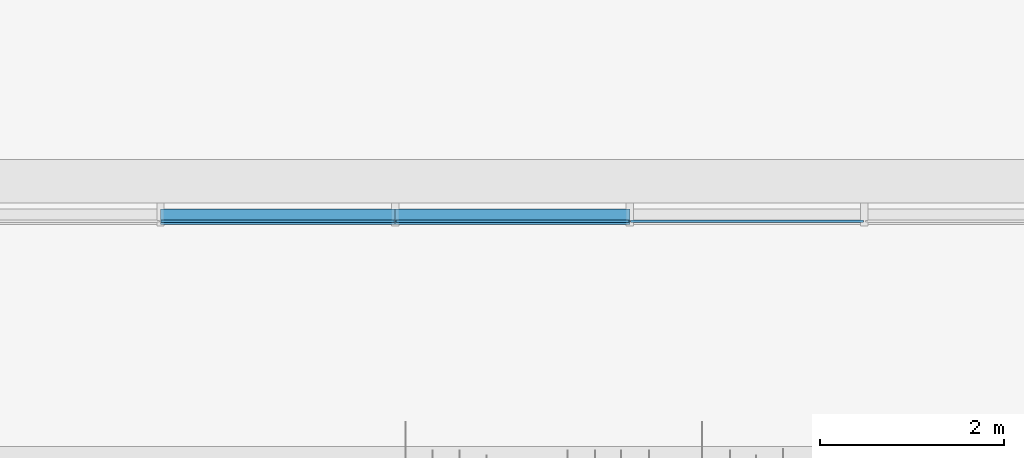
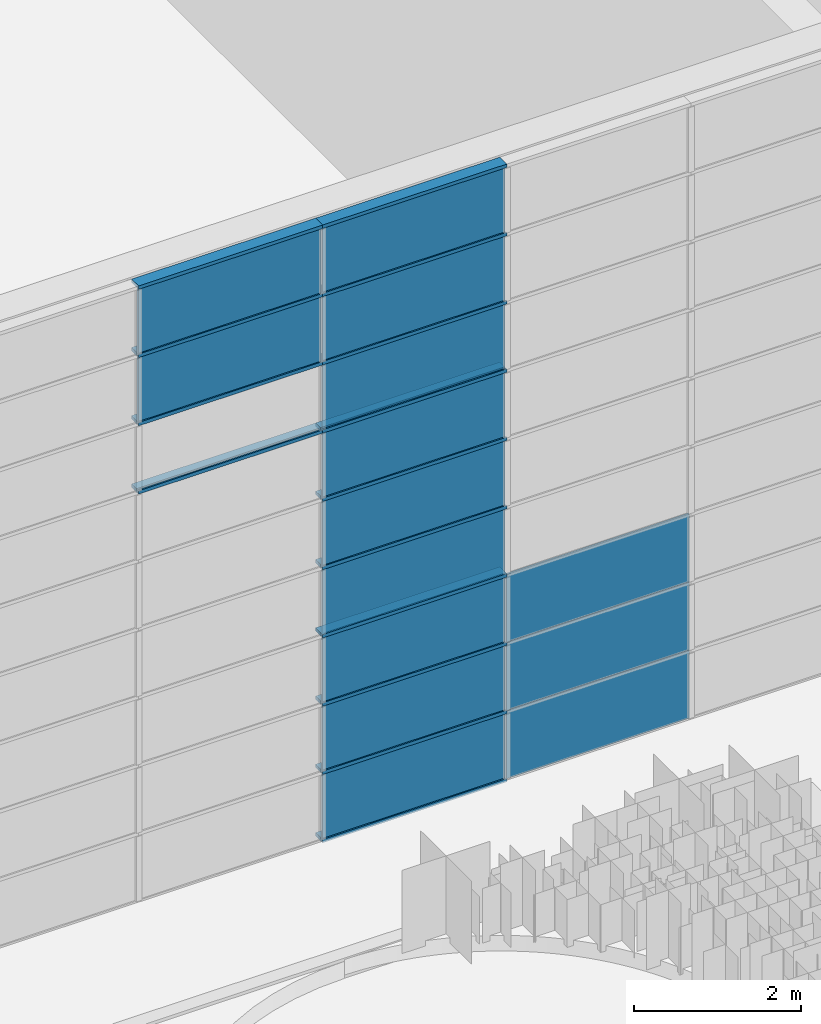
# One storey, part 57 of 105: 30 building element parts, 3 elements without a shape of their own.
"""IFC4 building model written with IfcOpenShell, lengths in millimetres."""

from ifc_helpers import new_model, entity, si_unit, converted_unit, derived_unit, direction, frame, origin_with_axes, place, context, subcontext, project, spatial, triangles, material, element, aggregate, save


model = new_model("IFC4")

# Units and contexts
model_context = context("Model", 3, precision=1e-05, world=origin_with_axes(), true_north=direction((0.0, 1.0)))
body_context = subcontext(model_context, "Body", "Model", "MODEL_VIEW")
ifc_project = project(units=[si_unit("LENGTHUNIT", "METRE", prefix="MILLI"), si_unit("AREAUNIT", "SQUARE_METRE"), si_unit("VOLUMEUNIT", "CUBIC_METRE"), converted_unit("PLANEANGLEUNIT", "DEGREE", entity("IfcLengthMeasure", 0.017453), si_unit("PLANEANGLEUNIT", "RADIAN"), dimensions=[0, 0, 0, 0, 0, 0, 0]), si_unit("SOLIDANGLEUNIT", "STERADIAN"), si_unit("MASSUNIT", "GRAM"), si_unit("TIMEUNIT", "SECOND"), si_unit("THERMODYNAMICTEMPERATUREUNIT", "DEGREE_CELSIUS"), si_unit("LUMINOUSINTENSITYUNIT", "LUMEN"), si_unit("POWERUNIT", "WATT"), derived_unit("THERMALTRANSMITTANCEUNIT", [(si_unit("POWERUNIT", "WATT"), 1), (si_unit("THERMODYNAMICTEMPERATUREUNIT", "KELVIN"), -1), (si_unit("AREAUNIT", "SQUARE_METRE"), -1)])], contexts=[model_context])

# Site, building, storey
site_placement = place(None, origin_with_axes())
site = spatial("IfcSite", under=ifc_project, at=site_placement, Name="Default Site", CompositionType="ELEMENT")
building_placement = place(site_placement, origin_with_axes())
building = spatial("IfcBuilding", under=site, at=building_placement, Name="Default Building", CompositionType="ELEMENT")
storey_placement = place(building_placement, origin_with_axes())
storey = spatial("IfcBuildingStorey", under=building, at=storey_placement, Name="OG - Story", CompositionType="ELEMENT", Elevation=0.0)

# Curtain wall, building element parts
curtain_wall_1_placement = place(storey_placement, origin_with_axes())
curtain_wall_1 = element("IfcCurtainWall", 1, at=curtain_wall_1_placement, inside=storey, Name="Fassade-005", PredefinedType="NOTDEFINED")
ifc_material_1 = material(Name="Normalglas")
building_element_part_1_placement = place(curtain_wall_1_placement, frame((52496.845873, -27789.262838, 3000.0), z_axis=(0.0, 0.0, 1.0), x_axis=(1.0, 0.0, 0.0)))
building_element_part_1 = element("IfcBuildingElementPart", 2, at=building_element_part_1_placement, material=ifc_material_1, Name="Normalglas", PredefinedType="NOTDEFINED", context=body_context, shape_type="Tessellation", body=[
    triangles([(21672.727, 15.0, 995.0), (19141.818, 15.0, 995.0), (19141.818, -14.999, 995.0), (21672.727, -14.999, 995.0), (21672.727, 15.0, 5.0), (19141.818, 15.0, 5.0), (19141.818, -14.999, 5.0), (21672.727, -14.999, 5.0)], [[1, 2, 3], [1, 3, 4], [1, 5, 6], [1, 6, 2], [2, 6, 7], [2, 7, 3], [4, 3, 7], [4, 7, 8], [5, 1, 4], [5, 4, 8], [6, 5, 8], [6, 8, 7]], closed=False),
])
building_element_part_2_placement = place(curtain_wall_1_placement, frame((52496.845873, -27789.262838, 3000.0), z_axis=(0.0, 0.0, 1.0), x_axis=(1.0, 0.0, 0.0)))
building_element_part_2 = element("IfcBuildingElementPart", 3, at=building_element_part_2_placement, material=ifc_material_1, Name="Normalglas", PredefinedType="NOTDEFINED", context=body_context, shape_type="Tessellation", body=[
    triangles([(24223.636, 15.0, 995.0), (21692.727, 15.0, 995.0), (21692.727, -14.999, 995.0), (24223.636, -14.999, 995.0), (24223.636, 15.0, 5.0), (21692.727, 15.0, 5.0), (21692.727, -14.999, 5.0), (24223.636, -14.999, 5.0)], [[1, 2, 3], [1, 3, 4], [1, 5, 6], [1, 6, 2], [2, 6, 7], [2, 7, 3], [4, 3, 7], [4, 7, 8], [5, 1, 4], [5, 4, 8], [6, 5, 8], [6, 8, 7]], closed=False),
])
building_element_part_3_placement = place(curtain_wall_1_placement, frame((52496.845873, -27789.262838, 3000.0), z_axis=(0.0, 0.0, 1.0), x_axis=(1.0, 0.0, 0.0)))
building_element_part_3 = element("IfcBuildingElementPart", 4, at=building_element_part_3_placement, material=ifc_material_1, Name="Normalglas", PredefinedType="NOTDEFINED", context=body_context, shape_type="Tessellation", body=[
    triangles([(24223.636, 15.0, 2995.0), (21692.727, 15.0, 2995.0), (21692.727, -14.999, 2995.0), (24223.636, -14.999, 2995.0), (24223.636, 15.0, 2005.0), (21692.727, 15.0, 2005.0), (21692.727, -14.999, 2005.0), (24223.636, -14.999, 2005.0)], [[1, 2, 3], [1, 3, 4], [1, 5, 6], [1, 6, 2], [2, 6, 7], [2, 7, 3], [4, 3, 7], [4, 7, 8], [5, 1, 4], [5, 4, 8], [6, 5, 8], [6, 8, 7]], closed=False),
])
building_element_part_4_placement = place(curtain_wall_1_placement, frame((52496.845873, -27789.262838, 3000.0), z_axis=(0.0, 0.0, 1.0), x_axis=(1.0, 0.0, 0.0)))
building_element_part_4 = element("IfcBuildingElementPart", 5, at=building_element_part_4_placement, material=ifc_material_1, Name="Normalglas", PredefinedType="NOTDEFINED", context=body_context, shape_type="Tessellation", body=[
    triangles([(21672.727, 15.0, 1995.0), (19141.818, 15.0, 1995.0), (19141.818, -14.999, 1995.0), (21672.727, -14.999, 1995.0), (21672.727, 15.0, 1005.0), (19141.818, 15.0, 1005.0), (19141.818, -14.999, 1005.0), (21672.727, -14.999, 1005.0)], [[1, 2, 3], [1, 3, 4], [1, 5, 6], [1, 6, 2], [2, 6, 7], [2, 7, 3], [4, 3, 7], [4, 7, 8], [5, 1, 4], [5, 4, 8], [6, 5, 8], [6, 8, 7]], closed=False),
])
building_element_part_5_placement = place(curtain_wall_1_placement, frame((52496.845873, -27789.262838, 3000.0), z_axis=(0.0, 0.0, 1.0), x_axis=(1.0, 0.0, 0.0)))
building_element_part_5 = element("IfcBuildingElementPart", 6, at=building_element_part_5_placement, material=ifc_material_1, Name="Normalglas", PredefinedType="NOTDEFINED", context=body_context, shape_type="Tessellation", body=[
    triangles([(24223.636, 15.0, 1995.0), (21692.727, 15.0, 1995.0), (21692.727, -14.999, 1995.0), (24223.636, -14.999, 1995.0), (24223.636, 15.0, 1005.0), (21692.727, 15.0, 1005.0), (21692.727, -14.999, 1005.0), (24223.636, -14.999, 1005.0)], [[1, 2, 3], [1, 3, 4], [1, 5, 6], [1, 6, 2], [2, 6, 7], [2, 7, 3], [4, 3, 7], [4, 7, 8], [5, 1, 4], [5, 4, 8], [6, 5, 8], [6, 8, 7]], closed=False),
])
building_element_part_6_placement = place(curtain_wall_1_placement, frame((52496.845873, -27789.262838, 3000.0), z_axis=(0.0, 0.0, 1.0), x_axis=(1.0, 0.0, 0.0)))
building_element_part_6 = element("IfcBuildingElementPart", 7, at=building_element_part_6_placement, material=ifc_material_1, Name="Normalglas", PredefinedType="NOTDEFINED", context=body_context, shape_type="Tessellation", body=[
    triangles([(21672.727, 15.0, 2995.0), (19141.818, 15.0, 2995.0), (19141.818, -14.999, 2995.0), (21672.727, -14.999, 2995.0), (21672.727, 15.0, 2005.0), (19141.818, 15.0, 2005.0), (19141.818, -14.999, 2005.0), (21672.727, -14.999, 2005.0)], [[1, 2, 3], [1, 3, 4], [1, 5, 6], [1, 6, 2], [2, 6, 7], [2, 7, 3], [4, 3, 7], [4, 7, 8], [5, 1, 4], [5, 4, 8], [6, 5, 8], [6, 8, 7]], closed=False),
])
ifc_material_2 = material(Name="Blech")
building_element_part_7_placement = place(curtain_wall_1_placement, frame((52496.845873, -27789.262838, 3000.0), z_axis=(0.0, 0.0, 1.0), x_axis=(1.0, 0.0, 0.0)))
building_element_part_7 = element("IfcBuildingElementPart", 8, at=building_element_part_7_placement, material=ifc_material_2, Name="Blech", PredefinedType="NOTDEFINED", context=body_context, shape_type="Tessellation", body=[
    triangles([(21682.727, 15.0, 25.0), (21682.727, 133.0, 25.0), (21682.727, 15.0, 5.0), (21682.727, 133.0, -24.999), (21682.727, -14.999, 5.0), (21682.727, -34.999, -24.999), (21682.727, -14.999, 25.0), (21682.727, -34.999, 25.0), (19131.818, 15.0, 5.0), (19131.818, -14.999, 5.0), (19131.818, -14.999, 25.0), (19131.818, -34.999, 25.0), (19131.818, -34.999, -24.999), (19131.818, 133.0, -24.999), (19131.818, 133.0, 25.0), (19131.818, 15.0, 25.0)], [[1, 2, 3], [3, 2, 4], [3, 4, 5], [5, 4, 6], [5, 6, 7], [7, 6, 8], [5, 3, 9], [5, 9, 10], [11, 7, 5], [11, 5, 10], [7, 11, 12], [7, 12, 8], [13, 6, 8], [13, 8, 12], [14, 4, 6], [14, 6, 13], [15, 2, 4], [15, 4, 14], [16, 1, 2], [16, 2, 15], [3, 1, 16], [3, 16, 9], [16, 15, 9], [9, 15, 14], [9, 14, 10], [10, 14, 13], [10, 13, 11], [11, 13, 12]], closed=False),
])
building_element_part_8_placement = place(curtain_wall_1_placement, frame((52496.845873, -27789.262838, 3000.0), z_axis=(0.0, 0.0, 1.0), x_axis=(1.0, 0.0, 0.0)))
building_element_part_8 = element("IfcBuildingElementPart", 9, at=building_element_part_8_placement, material=ifc_material_2, Name="Blech", PredefinedType="NOTDEFINED", context=body_context, shape_type="Tessellation", body=[
    triangles([(21682.727, 133.0, 1025.0), (21682.727, 15.0, 1025.0), (21682.727, 133.0, 975.0), (21682.727, 15.0, 1005.0), (21682.727, 15.0, 995.0), (21682.727, -14.999, 1005.0), (21682.727, -14.999, 995.0), (21682.727, -14.999, 975.0), (21682.727, -14.999, 1025.0), (21682.727, -34.999, 1025.0), (21682.727, -34.999, 975.0), (21682.727, 15.0, 975.0), (19131.818, 15.0, 995.0), (19131.818, 15.0, 975.0), (19131.818, 133.0, 975.0), (19131.818, 133.0, 1025.0), (19131.818, 15.0, 1025.0), (19131.818, 15.0, 1005.0), (19131.818, -14.999, 1005.0), (19131.818, -14.999, 1025.0), (19131.818, -34.999, 1025.0), (19131.818, -34.999, 975.0), (19131.818, -14.999, 975.0), (19131.818, -14.999, 995.0)], [[1, 2, 3], [3, 2, 4], [3, 4, 5], [5, 4, 6], [5, 6, 7], [8, 9, 10], [8, 10, 11], [3, 5, 12], [12, 5, 13], [12, 13, 14], [12, 14, 15], [12, 15, 3], [1, 3, 15], [1, 15, 16], [2, 1, 16], [2, 16, 17], [2, 17, 18], [2, 18, 4], [4, 18, 19], [4, 19, 6], [9, 6, 19], [9, 19, 20], [20, 21, 10], [20, 10, 9], [11, 10, 21], [11, 21, 22], [23, 8, 11], [23, 11, 22], [7, 8, 23], [7, 23, 24], [5, 7, 24], [5, 24, 13], [15, 14, 16], [16, 14, 13], [16, 13, 18], [18, 13, 24], [18, 24, 19], [20, 23, 22], [20, 22, 21], [16, 18, 17]], closed=False),
])
building_element_part_9_placement = place(curtain_wall_1_placement, frame((52496.845873, -27789.262838, 3000.0), z_axis=(0.0, 0.0, 1.0), x_axis=(1.0, 0.0, 0.0)))
building_element_part_9 = element("IfcBuildingElementPart", 10, at=building_element_part_9_placement, material=ifc_material_2, Name="Blech", PredefinedType="NOTDEFINED", context=body_context, shape_type="Tessellation", body=[
    triangles([(21682.727, 133.0, 2025.0), (21682.727, 15.0, 2025.0), (21682.727, 133.0, 1975.0), (21682.727, 15.0, 2005.0), (21682.727, 15.0, 1995.0), (21682.727, -14.999, 2005.0), (21682.727, -14.999, 1995.0), (21682.727, -14.999, 1975.0), (21682.727, -14.999, 2025.0), (21682.727, -34.999, 2025.0), (21682.727, -34.999, 1975.0), (21682.727, 15.0, 1975.0), (19131.818, 15.0, 1995.0), (19131.818, 15.0, 1975.0), (19131.818, 133.0, 1975.0), (19131.818, 133.0, 2025.0), (19131.818, 15.0, 2025.0), (19131.818, 15.0, 2005.0), (19131.818, -14.999, 2005.0), (19131.818, -14.999, 2025.0), (19131.818, -34.999, 2025.0), (19131.818, -34.999, 1975.0), (19131.818, -14.999, 1975.0), (19131.818, -14.999, 1995.0)], [[1, 2, 3], [3, 2, 4], [3, 4, 5], [5, 4, 6], [5, 6, 7], [8, 9, 10], [8, 10, 11], [3, 5, 12], [12, 5, 13], [12, 13, 14], [12, 14, 15], [12, 15, 3], [1, 3, 15], [1, 15, 16], [2, 1, 16], [2, 16, 17], [2, 17, 18], [2, 18, 4], [4, 18, 19], [4, 19, 6], [9, 6, 19], [9, 19, 20], [20, 21, 10], [20, 10, 9], [11, 10, 21], [11, 21, 22], [23, 8, 11], [23, 11, 22], [7, 8, 23], [7, 23, 24], [5, 7, 24], [5, 24, 13], [15, 14, 16], [16, 14, 13], [16, 13, 18], [18, 13, 24], [18, 24, 19], [20, 23, 22], [20, 22, 21], [16, 18, 17]], closed=False),
])
building_element_part_10_placement = place(curtain_wall_1_placement, frame((52496.845873, -27789.262838, 3000.0), z_axis=(0.0, 0.0, 1.0), x_axis=(1.0, 0.0, 0.0)))
building_element_part_10 = element("IfcBuildingElementPart", 11, at=building_element_part_10_placement, material=ifc_material_2, Name="Blech", PredefinedType="NOTDEFINED", context=body_context, shape_type="Tessellation", body=[
    triangles([(21682.727, 15.0, 2975.0), (21682.727, 133.0, 2975.0), (21682.727, 15.0, 2995.0), (21682.727, 133.0, 3025.0), (21682.727, -14.999, 2995.0), (21682.727, -34.999, 3025.0), (21682.727, -14.999, 2975.0), (21682.727, -34.999, 2975.0), (19131.818, 15.0, 2995.0), (19131.818, 15.0, 2975.0), (19131.818, 133.0, 2975.0), (19131.818, 133.0, 3025.0), (19131.818, -34.999, 3025.0), (19131.818, -34.999, 2975.0), (19131.818, -14.999, 2975.0), (19131.818, -14.999, 2995.0)], [[1, 2, 3], [3, 2, 4], [3, 4, 5], [5, 4, 6], [5, 6, 7], [7, 6, 8], [3, 9, 10], [3, 10, 1], [10, 11, 2], [10, 2, 1], [11, 12, 4], [11, 4, 2], [12, 13, 6], [12, 6, 4], [13, 14, 8], [13, 8, 6], [7, 8, 14], [7, 14, 15], [15, 16, 5], [15, 5, 7], [5, 16, 9], [5, 9, 3], [10, 11, 9], [9, 11, 12], [9, 12, 16], [16, 12, 13], [16, 13, 15], [15, 13, 14]], closed=False),
])
aggregate(curtain_wall_1, [building_element_part_1, building_element_part_2, building_element_part_3, building_element_part_4, building_element_part_5, building_element_part_6, building_element_part_7, building_element_part_8, building_element_part_9, building_element_part_10])

curtain_wall_2_placement = place(storey_placement, origin_with_axes())
curtain_wall_2 = element("IfcCurtainWall", 12, at=curtain_wall_2_placement, inside=storey, Name="Fassade-005", PredefinedType="NOTDEFINED")
building_element_part_11_placement = place(curtain_wall_2_placement, frame((52496.845873, -27789.262838, 6000.0), z_axis=(0.0, 0.0, 1.0), x_axis=(1.0, 0.0, 0.0)))
building_element_part_11 = element("IfcBuildingElementPart", 13, at=building_element_part_11_placement, material=ifc_material_1, Name="Normalglas", PredefinedType="NOTDEFINED", context=body_context, shape_type="Tessellation", body=[
    triangles([(21672.727, 15.0, 995.0), (19141.818, 15.0, 995.0), (19141.818, -14.999, 995.0), (21672.727, -14.999, 995.0), (21672.727, 15.0, 5.0), (19141.818, 15.0, 5.0), (19141.818, -14.999, 5.0), (21672.727, -14.999, 5.0)], [[1, 2, 3], [1, 3, 4], [1, 5, 6], [1, 6, 2], [2, 6, 7], [2, 7, 3], [4, 3, 7], [4, 7, 8], [5, 1, 4], [5, 4, 8], [6, 5, 8], [6, 8, 7]], closed=False),
])
building_element_part_12_placement = place(curtain_wall_2_placement, frame((52496.845873, -27789.262838, 6000.0), z_axis=(0.0, 0.0, 1.0), x_axis=(1.0, 0.0, 0.0)))
building_element_part_12 = element("IfcBuildingElementPart", 14, at=building_element_part_12_placement, material=ifc_material_1, Name="Normalglas", PredefinedType="NOTDEFINED", context=body_context, shape_type="Tessellation", body=[
    triangles([(21672.727, 15.0, 1995.0), (19141.818, 15.0, 1995.0), (19141.818, -14.999, 1995.0), (21672.727, -14.999, 1995.0), (21672.727, 15.0, 1005.0), (19141.818, 15.0, 1005.0), (19141.818, -14.999, 1005.0), (21672.727, -14.999, 1005.0)], [[1, 2, 3], [1, 3, 4], [1, 5, 6], [1, 6, 2], [2, 6, 7], [2, 7, 3], [4, 3, 7], [4, 7, 8], [5, 1, 4], [5, 4, 8], [6, 5, 8], [6, 8, 7]], closed=False),
])
building_element_part_13_placement = place(curtain_wall_2_placement, frame((52496.845873, -27789.262838, 6000.0), z_axis=(0.0, 0.0, 1.0), x_axis=(1.0, 0.0, 0.0)))
building_element_part_13 = element("IfcBuildingElementPart", 15, at=building_element_part_13_placement, material=ifc_material_1, Name="Normalglas", PredefinedType="NOTDEFINED", context=body_context, shape_type="Tessellation", body=[
    triangles([(21672.727, 15.0, 2995.0), (19141.818, 15.0, 2995.0), (19141.818, -14.999, 2995.0), (21672.727, -14.999, 2995.0), (21672.727, 15.0, 2005.0), (19141.818, 15.0, 2005.0), (19141.818, -14.999, 2005.0), (21672.727, -14.999, 2005.0)], [[1, 2, 3], [1, 3, 4], [1, 5, 6], [1, 6, 2], [2, 6, 7], [2, 7, 3], [4, 3, 7], [4, 7, 8], [5, 1, 4], [5, 4, 8], [6, 5, 8], [6, 8, 7]], closed=False),
])
building_element_part_14_placement = place(curtain_wall_2_placement, frame((52496.845873, -27789.262838, 6000.0), z_axis=(0.0, 0.0, 1.0), x_axis=(1.0, 0.0, 0.0)))
building_element_part_14 = element("IfcBuildingElementPart", 16, at=building_element_part_14_placement, material=ifc_material_2, Name="Blech", PredefinedType="NOTDEFINED", context=body_context, shape_type="Tessellation", body=[
    triangles([(21682.727, 15.0, 25.0), (21682.727, 133.0, 25.0), (21682.727, 15.0, 5.0), (21682.727, 133.0, -24.999), (21682.727, -14.999, 5.0), (21682.727, -34.999, -24.999), (21682.727, -14.999, 25.0), (21682.727, -34.999, 25.0), (19131.818, 15.0, 5.0), (19131.818, -14.999, 5.0), (19131.818, -14.999, 25.0), (19131.818, -34.999, 25.0), (19131.818, -34.999, -24.999), (19131.818, 133.0, -24.999), (19131.818, 133.0, 25.0), (19131.818, 15.0, 25.0)], [[1, 2, 3], [3, 2, 4], [3, 4, 5], [5, 4, 6], [5, 6, 7], [7, 6, 8], [5, 3, 9], [5, 9, 10], [11, 7, 5], [11, 5, 10], [7, 11, 12], [7, 12, 8], [13, 6, 8], [13, 8, 12], [14, 4, 6], [14, 6, 13], [15, 2, 4], [15, 4, 14], [16, 1, 2], [16, 2, 15], [3, 1, 16], [3, 16, 9], [16, 15, 9], [9, 15, 14], [9, 14, 10], [10, 14, 13], [10, 13, 11], [11, 13, 12]], closed=False),
])
building_element_part_15_placement = place(curtain_wall_2_placement, frame((52496.845873, -27789.262838, 6000.0), z_axis=(0.0, 0.0, 1.0), x_axis=(1.0, 0.0, 0.0)))
building_element_part_15 = element("IfcBuildingElementPart", 17, at=building_element_part_15_placement, material=ifc_material_2, Name="Blech", PredefinedType="NOTDEFINED", context=body_context, shape_type="Tessellation", body=[
    triangles([(21682.727, 133.0, 1025.0), (21682.727, 15.0, 1025.0), (21682.727, 133.0, 975.0), (21682.727, 15.0, 1005.0), (21682.727, 15.0, 995.0), (21682.727, -14.999, 1005.0), (21682.727, -14.999, 995.0), (21682.727, -14.999, 975.0), (21682.727, -14.999, 1025.0), (21682.727, -34.999, 1025.0), (21682.727, -34.999, 975.0), (21682.727, 15.0, 975.0), (19131.818, 15.0, 995.0), (19131.818, 15.0, 975.0), (19131.818, 133.0, 975.0), (19131.818, 133.0, 1025.0), (19131.818, 15.0, 1025.0), (19131.818, 15.0, 1005.0), (19131.818, -14.999, 1005.0), (19131.818, -14.999, 1025.0), (19131.818, -34.999, 1025.0), (19131.818, -34.999, 975.0), (19131.818, -14.999, 975.0), (19131.818, -14.999, 995.0)], [[1, 2, 3], [3, 2, 4], [3, 4, 5], [5, 4, 6], [5, 6, 7], [8, 9, 10], [8, 10, 11], [3, 5, 12], [12, 5, 13], [12, 13, 14], [12, 14, 15], [12, 15, 3], [1, 3, 15], [1, 15, 16], [2, 1, 16], [2, 16, 17], [2, 17, 18], [2, 18, 4], [4, 18, 19], [4, 19, 6], [9, 6, 19], [9, 19, 20], [20, 21, 10], [20, 10, 9], [11, 10, 21], [11, 21, 22], [23, 8, 11], [23, 11, 22], [7, 8, 23], [7, 23, 24], [5, 7, 24], [5, 24, 13], [15, 14, 16], [16, 14, 13], [16, 13, 18], [18, 13, 24], [18, 24, 19], [20, 23, 22], [20, 22, 21], [16, 18, 17]], closed=False),
])
building_element_part_16_placement = place(curtain_wall_2_placement, frame((52496.845873, -27789.262838, 6000.0), z_axis=(0.0, 0.0, 1.0), x_axis=(1.0, 0.0, 0.0)))
building_element_part_16 = element("IfcBuildingElementPart", 18, at=building_element_part_16_placement, material=ifc_material_2, Name="Blech", PredefinedType="NOTDEFINED", context=body_context, shape_type="Tessellation", body=[
    triangles([(21682.727, 133.0, 2025.0), (21682.727, 15.0, 2025.0), (21682.727, 133.0, 1975.0), (21682.727, 15.0, 2005.0), (21682.727, 15.0, 1995.0), (21682.727, -14.999, 2005.0), (21682.727, -14.999, 1995.0), (21682.727, -14.999, 1975.0), (21682.727, -14.999, 2025.0), (21682.727, -34.999, 2025.0), (21682.727, -34.999, 1975.0), (21682.727, 15.0, 1975.0), (19131.818, 15.0, 1995.0), (19131.818, 15.0, 1975.0), (19131.818, 133.0, 1975.0), (19131.818, 133.0, 2025.0), (19131.818, 15.0, 2025.0), (19131.818, 15.0, 2005.0), (19131.818, -14.999, 2005.0), (19131.818, -14.999, 2025.0), (19131.818, -34.999, 2025.0), (19131.818, -34.999, 1975.0), (19131.818, -14.999, 1975.0), (19131.818, -14.999, 1995.0)], [[1, 2, 3], [3, 2, 4], [3, 4, 5], [5, 4, 6], [5, 6, 7], [8, 9, 10], [8, 10, 11], [3, 5, 12], [12, 5, 13], [12, 13, 14], [12, 14, 15], [12, 15, 3], [1, 3, 15], [1, 15, 16], [2, 1, 16], [2, 16, 17], [2, 17, 18], [2, 18, 4], [4, 18, 19], [4, 19, 6], [9, 6, 19], [9, 19, 20], [20, 21, 10], [20, 10, 9], [11, 10, 21], [11, 21, 22], [23, 8, 11], [23, 11, 22], [7, 8, 23], [7, 23, 24], [5, 7, 24], [5, 24, 13], [15, 14, 16], [16, 14, 13], [16, 13, 18], [18, 13, 24], [18, 24, 19], [20, 23, 22], [20, 22, 21], [16, 18, 17]], closed=False),
])
building_element_part_17_placement = place(curtain_wall_2_placement, frame((52496.845873, -27789.262838, 6000.0), z_axis=(0.0, 0.0, 1.0), x_axis=(1.0, 0.0, 0.0)))
building_element_part_17 = element("IfcBuildingElementPart", 19, at=building_element_part_17_placement, material=ifc_material_2, Name="Blech", PredefinedType="NOTDEFINED", context=body_context, shape_type="Tessellation", body=[
    triangles([(21682.727, 15.0, 2975.0), (21682.727, 133.0, 2975.0), (21682.727, 15.0, 2995.0), (21682.727, 133.0, 3025.0), (21682.727, -14.999, 2995.0), (21682.727, -34.999, 3025.0), (21682.727, -14.999, 2975.0), (21682.727, -34.999, 2975.0), (19131.818, 15.0, 2995.0), (19131.818, 15.0, 2975.0), (19131.818, 133.0, 2975.0), (19131.818, 133.0, 3025.0), (19131.818, -34.999, 3025.0), (19131.818, -34.999, 2975.0), (19131.818, -14.999, 2975.0), (19131.818, -14.999, 2995.0)], [[1, 2, 3], [3, 2, 4], [3, 4, 5], [5, 4, 6], [5, 6, 7], [7, 6, 8], [3, 9, 10], [3, 10, 1], [10, 11, 2], [10, 2, 1], [11, 12, 4], [11, 4, 2], [12, 13, 6], [12, 6, 4], [13, 14, 8], [13, 8, 6], [7, 8, 14], [7, 14, 15], [15, 16, 5], [15, 5, 7], [5, 16, 9], [5, 9, 3], [10, 11, 9], [9, 11, 12], [9, 12, 16], [16, 12, 13], [16, 13, 15], [15, 13, 14]], closed=False),
])
aggregate(curtain_wall_2, [building_element_part_11, building_element_part_12, building_element_part_13, building_element_part_14, building_element_part_15, building_element_part_16, building_element_part_17])

curtain_wall_3_placement = place(storey_placement, origin_with_axes())
curtain_wall_3 = element("IfcCurtainWall", 20, at=curtain_wall_3_placement, inside=storey, Name="Fassade-005", PredefinedType="NOTDEFINED")
building_element_part_18_placement = place(curtain_wall_3_placement, frame((52496.845873, -27789.262838, 9000.0), z_axis=(0.0, 0.0, 1.0), x_axis=(1.0, 0.0, 0.0)))
building_element_part_18 = element("IfcBuildingElementPart", 21, at=building_element_part_18_placement, material=ifc_material_1, Name="Normalglas", PredefinedType="NOTDEFINED", context=body_context, shape_type="Tessellation", body=[
    triangles([(21672.727, 15.0, 995.0), (19141.818, 15.0, 995.0), (19141.818, -14.999, 995.0), (21672.727, -14.999, 995.0), (21672.727, 15.0, 5.0), (19141.818, 15.0, 5.0), (19141.818, -14.999, 5.0), (21672.727, -14.999, 5.0)], [[1, 2, 3], [1, 3, 4], [1, 5, 6], [1, 6, 2], [2, 6, 7], [2, 7, 3], [4, 3, 7], [4, 7, 8], [5, 1, 4], [5, 4, 8], [6, 5, 8], [6, 8, 7]], closed=False),
])
building_element_part_19_placement = place(curtain_wall_3_placement, frame((52496.845873, -27789.262838, 9000.0), z_axis=(0.0, 0.0, 1.0), x_axis=(1.0, 0.0, 0.0)))
building_element_part_19 = element("IfcBuildingElementPart", 22, at=building_element_part_19_placement, material=ifc_material_1, Name="Normalglas", PredefinedType="NOTDEFINED", context=body_context, shape_type="Tessellation", body=[
    triangles([(19121.818, 15.0, 1995.0), (16590.909, 15.0, 1995.0), (16590.909, -14.999, 1995.0), (19121.818, -14.999, 1995.0), (19121.818, 15.0, 1005.0), (16590.909, 15.0, 1005.0), (16590.909, -14.999, 1005.0), (19121.818, -14.999, 1005.0)], [[1, 2, 3], [1, 3, 4], [1, 5, 6], [1, 6, 2], [2, 6, 7], [2, 7, 3], [4, 3, 7], [4, 7, 8], [5, 1, 4], [5, 4, 8], [6, 5, 8], [6, 8, 7]], closed=False),
])
building_element_part_20_placement = place(curtain_wall_3_placement, frame((52496.845873, -27789.262838, 9000.0), z_axis=(0.0, 0.0, 1.0), x_axis=(1.0, 0.0, 0.0)))
building_element_part_20 = element("IfcBuildingElementPart", 23, at=building_element_part_20_placement, material=ifc_material_1, Name="Normalglas", PredefinedType="NOTDEFINED", context=body_context, shape_type="Tessellation", body=[
    triangles([(21672.727, 15.0, 1995.0), (19141.818, 15.0, 1995.0), (19141.818, -14.999, 1995.0), (21672.727, -14.999, 1995.0), (21672.727, 15.0, 1005.0), (19141.818, 15.0, 1005.0), (19141.818, -14.999, 1005.0), (21672.727, -14.999, 1005.0)], [[1, 2, 3], [1, 3, 4], [1, 5, 6], [1, 6, 2], [2, 6, 7], [2, 7, 3], [4, 3, 7], [4, 7, 8], [5, 1, 4], [5, 4, 8], [6, 5, 8], [6, 8, 7]], closed=False),
])
building_element_part_21_placement = place(curtain_wall_3_placement, frame((52496.845873, -27789.262838, 9000.0), z_axis=(0.0, 0.0, 1.0), x_axis=(1.0, 0.0, 0.0)))
building_element_part_21 = element("IfcBuildingElementPart", 24, at=building_element_part_21_placement, material=ifc_material_1, Name="Normalglas", PredefinedType="NOTDEFINED", context=body_context, shape_type="Tessellation", body=[
    triangles([(19121.818, 15.0, 2995.0), (16590.909, 15.0, 2995.0), (16590.909, -14.999, 2995.0), (19121.818, -14.999, 2995.0), (19121.818, 15.0, 2005.0), (16590.909, 15.0, 2005.0), (16590.909, -14.999, 2005.0), (19121.818, -14.999, 2005.0)], [[1, 2, 3], [1, 3, 4], [1, 5, 6], [1, 6, 2], [2, 6, 7], [2, 7, 3], [4, 3, 7], [4, 7, 8], [5, 1, 4], [5, 4, 8], [6, 5, 8], [6, 8, 7]], closed=False),
])
building_element_part_22_placement = place(curtain_wall_3_placement, frame((52496.845873, -27789.262838, 9000.0), z_axis=(0.0, 0.0, 1.0), x_axis=(1.0, 0.0, 0.0)))
building_element_part_22 = element("IfcBuildingElementPart", 25, at=building_element_part_22_placement, material=ifc_material_1, Name="Normalglas", PredefinedType="NOTDEFINED", context=body_context, shape_type="Tessellation", body=[
    triangles([(21672.727, 15.0, 2995.0), (19141.818, 15.0, 2995.0), (19141.818, -14.999, 2995.0), (21672.727, -14.999, 2995.0), (21672.727, 15.0, 2005.0), (19141.818, 15.0, 2005.0), (19141.818, -14.999, 2005.0), (21672.727, -14.999, 2005.0)], [[1, 2, 3], [1, 3, 4], [1, 5, 6], [1, 6, 2], [2, 6, 7], [2, 7, 3], [4, 3, 7], [4, 7, 8], [5, 1, 4], [5, 4, 8], [6, 5, 8], [6, 8, 7]], closed=False),
])
building_element_part_23_placement = place(curtain_wall_3_placement, frame((52496.845873, -27789.262838, 9000.0), z_axis=(0.0, 0.0, 1.0), x_axis=(1.0, 0.0, 0.0)))
building_element_part_23 = element("IfcBuildingElementPart", 26, at=building_element_part_23_placement, material=ifc_material_2, Name="Blech", PredefinedType="NOTDEFINED", context=body_context, shape_type="Tessellation", body=[
    triangles([(19131.818, 15.0, 25.0), (19131.818, 133.0, 25.0), (19131.818, 15.0, 5.0), (19131.818, 133.0, -24.999), (19131.818, -14.999, 5.0), (19131.818, -34.999, -24.999), (19131.818, -14.999, 25.0), (19131.818, -34.999, 25.0), (16580.909, 15.0, 5.0), (16580.909, -14.999, 5.0), (16580.909, -14.999, 25.0), (16580.909, -34.999, 25.0), (16580.909, -34.999, -24.999), (16580.909, 133.0, -24.999), (16580.909, 133.0, 25.0), (16580.909, 15.0, 25.0)], [[1, 2, 3], [3, 2, 4], [3, 4, 5], [5, 4, 6], [5, 6, 7], [7, 6, 8], [5, 3, 9], [5, 9, 10], [11, 7, 5], [11, 5, 10], [7, 11, 12], [7, 12, 8], [13, 6, 8], [13, 8, 12], [14, 4, 6], [14, 6, 13], [15, 2, 4], [15, 4, 14], [16, 1, 2], [16, 2, 15], [3, 1, 16], [3, 16, 9], [16, 15, 9], [9, 15, 14], [9, 14, 10], [10, 14, 13], [10, 13, 11], [11, 13, 12]], closed=False),
])
building_element_part_24_placement = place(curtain_wall_3_placement, frame((52496.845873, -27789.262838, 9000.0), z_axis=(0.0, 0.0, 1.0), x_axis=(1.0, 0.0, 0.0)))
building_element_part_24 = element("IfcBuildingElementPart", 27, at=building_element_part_24_placement, material=ifc_material_2, Name="Blech", PredefinedType="NOTDEFINED", context=body_context, shape_type="Tessellation", body=[
    triangles([(21682.727, 15.0, 25.0), (21682.727, 133.0, 25.0), (21682.727, 15.0, 5.0), (21682.727, 133.0, -24.999), (21682.727, -14.999, 5.0), (21682.727, -34.999, -24.999), (21682.727, -14.999, 25.0), (21682.727, -34.999, 25.0), (19131.818, 15.0, 5.0), (19131.818, -14.999, 5.0), (19131.818, -14.999, 25.0), (19131.818, -34.999, 25.0), (19131.818, -34.999, -24.999), (19131.818, 133.0, -24.999), (19131.818, 133.0, 25.0), (19131.818, 15.0, 25.0)], [[1, 2, 3], [3, 2, 4], [3, 4, 5], [5, 4, 6], [5, 6, 7], [7, 6, 8], [5, 3, 9], [5, 9, 10], [11, 7, 5], [11, 5, 10], [7, 11, 12], [7, 12, 8], [13, 6, 8], [13, 8, 12], [14, 4, 6], [14, 6, 13], [15, 2, 4], [15, 4, 14], [16, 1, 2], [16, 2, 15], [3, 1, 16], [3, 16, 9], [16, 15, 9], [9, 15, 14], [9, 14, 10], [10, 14, 13], [10, 13, 11], [11, 13, 12]], closed=False),
])
building_element_part_25_placement = place(curtain_wall_3_placement, frame((52496.845873, -27789.262838, 9000.0), z_axis=(0.0, 0.0, 1.0), x_axis=(1.0, 0.0, 0.0)))
building_element_part_25 = element("IfcBuildingElementPart", 28, at=building_element_part_25_placement, material=ifc_material_2, Name="Blech", PredefinedType="NOTDEFINED", context=body_context, shape_type="Tessellation", body=[
    triangles([(19131.818, 133.0, 1025.0), (19131.818, 15.0, 1025.0), (19131.818, 133.0, 975.0), (19131.818, 15.0, 1005.0), (19131.818, 15.0, 995.0), (19131.818, -14.999, 1005.0), (19131.818, -14.999, 995.0), (19131.818, -14.999, 975.0), (19131.818, -14.999, 1025.0), (19131.818, -34.999, 1025.0), (19131.818, -34.999, 975.0), (19131.818, 15.0, 975.0), (16580.909, 15.0, 995.0), (16580.909, 15.0, 975.0), (16580.909, 133.0, 975.0), (16580.909, 133.0, 1025.0), (16580.909, 15.0, 1025.0), (16580.909, 15.0, 1005.0), (16580.909, -14.999, 1005.0), (16580.909, -14.999, 1025.0), (16580.909, -34.999, 1025.0), (16580.909, -34.999, 975.0), (16580.909, -14.999, 975.0), (16580.909, -14.999, 995.0)], [[1, 2, 3], [3, 2, 4], [3, 4, 5], [5, 4, 6], [5, 6, 7], [8, 9, 10], [8, 10, 11], [3, 5, 12], [12, 5, 13], [12, 13, 14], [12, 14, 15], [12, 15, 3], [1, 3, 15], [1, 15, 16], [2, 1, 16], [2, 16, 17], [2, 17, 18], [2, 18, 4], [4, 18, 19], [4, 19, 6], [9, 6, 19], [9, 19, 20], [20, 21, 10], [20, 10, 9], [11, 10, 21], [11, 21, 22], [23, 8, 11], [23, 11, 22], [7, 8, 23], [7, 23, 24], [5, 7, 24], [5, 24, 13], [15, 14, 16], [16, 14, 13], [16, 13, 18], [18, 13, 24], [18, 24, 19], [20, 23, 22], [20, 22, 21], [16, 18, 17]], closed=False),
])
building_element_part_26_placement = place(curtain_wall_3_placement, frame((52496.845873, -27789.262838, 9000.0), z_axis=(0.0, 0.0, 1.0), x_axis=(1.0, 0.0, 0.0)))
building_element_part_26 = element("IfcBuildingElementPart", 29, at=building_element_part_26_placement, material=ifc_material_2, Name="Blech", PredefinedType="NOTDEFINED", context=body_context, shape_type="Tessellation", body=[
    triangles([(21682.727, 133.0, 1025.0), (21682.727, 15.0, 1025.0), (21682.727, 133.0, 975.0), (21682.727, 15.0, 1005.0), (21682.727, 15.0, 995.0), (21682.727, -14.999, 1005.0), (21682.727, -14.999, 995.0), (21682.727, -14.999, 975.0), (21682.727, -14.999, 1025.0), (21682.727, -34.999, 1025.0), (21682.727, -34.999, 975.0), (21682.727, 15.0, 975.0), (19131.818, 15.0, 995.0), (19131.818, 15.0, 975.0), (19131.818, 133.0, 975.0), (19131.818, 133.0, 1025.0), (19131.818, 15.0, 1025.0), (19131.818, 15.0, 1005.0), (19131.818, -14.999, 1005.0), (19131.818, -14.999, 1025.0), (19131.818, -34.999, 1025.0), (19131.818, -34.999, 975.0), (19131.818, -14.999, 975.0), (19131.818, -14.999, 995.0)], [[1, 2, 3], [3, 2, 4], [3, 4, 5], [5, 4, 6], [5, 6, 7], [8, 9, 10], [8, 10, 11], [3, 5, 12], [12, 5, 13], [12, 13, 14], [12, 14, 15], [12, 15, 3], [1, 3, 15], [1, 15, 16], [2, 1, 16], [2, 16, 17], [2, 17, 18], [2, 18, 4], [4, 18, 19], [4, 19, 6], [9, 6, 19], [9, 19, 20], [20, 21, 10], [20, 10, 9], [11, 10, 21], [11, 21, 22], [23, 8, 11], [23, 11, 22], [7, 8, 23], [7, 23, 24], [5, 7, 24], [5, 24, 13], [15, 14, 16], [16, 14, 13], [16, 13, 18], [18, 13, 24], [18, 24, 19], [20, 23, 22], [20, 22, 21], [16, 18, 17]], closed=False),
])
building_element_part_27_placement = place(curtain_wall_3_placement, frame((52496.845873, -27789.262838, 9000.0), z_axis=(0.0, 0.0, 1.0), x_axis=(1.0, 0.0, 0.0)))
building_element_part_27 = element("IfcBuildingElementPart", 30, at=building_element_part_27_placement, material=ifc_material_2, Name="Blech", PredefinedType="NOTDEFINED", context=body_context, shape_type="Tessellation", body=[
    triangles([(19131.818, 133.0, 2025.0), (19131.818, 15.0, 2025.0), (19131.818, 133.0, 1975.0), (19131.818, 15.0, 2005.0), (19131.818, 15.0, 1995.0), (19131.818, -14.999, 2005.0), (19131.818, -14.999, 1995.0), (19131.818, -14.999, 1975.0), (19131.818, -14.999, 2025.0), (19131.818, -34.999, 2025.0), (19131.818, -34.999, 1975.0), (19131.818, 15.0, 1975.0), (16580.909, 15.0, 1995.0), (16580.909, 15.0, 1975.0), (16580.909, 133.0, 1975.0), (16580.909, 133.0, 2025.0), (16580.909, 15.0, 2025.0), (16580.909, 15.0, 2005.0), (16580.909, -14.999, 2005.0), (16580.909, -14.999, 2025.0), (16580.909, -34.999, 2025.0), (16580.909, -34.999, 1975.0), (16580.909, -14.999, 1975.0), (16580.909, -14.999, 1995.0)], [[1, 2, 3], [3, 2, 4], [3, 4, 5], [5, 4, 6], [5, 6, 7], [8, 9, 10], [8, 10, 11], [3, 5, 12], [12, 5, 13], [12, 13, 14], [12, 14, 15], [12, 15, 3], [1, 3, 15], [1, 15, 16], [2, 1, 16], [2, 16, 17], [2, 17, 18], [2, 18, 4], [4, 18, 19], [4, 19, 6], [9, 6, 19], [9, 19, 20], [20, 21, 10], [20, 10, 9], [11, 10, 21], [11, 21, 22], [23, 8, 11], [23, 11, 22], [7, 8, 23], [7, 23, 24], [5, 7, 24], [5, 24, 13], [15, 14, 16], [16, 14, 13], [16, 13, 18], [18, 13, 24], [18, 24, 19], [20, 23, 22], [20, 22, 21], [16, 18, 17]], closed=False),
])
building_element_part_28_placement = place(curtain_wall_3_placement, frame((52496.845873, -27789.262838, 9000.0), z_axis=(0.0, 0.0, 1.0), x_axis=(1.0, 0.0, 0.0)))
building_element_part_28 = element("IfcBuildingElementPart", 31, at=building_element_part_28_placement, material=ifc_material_2, Name="Blech", PredefinedType="NOTDEFINED", context=body_context, shape_type="Tessellation", body=[
    triangles([(19131.818, 15.0, 2975.0), (19131.818, 133.0, 2975.0), (19131.818, 15.0, 2995.0), (19131.818, 133.0, 3025.0), (19131.818, -14.999, 2995.0), (19131.818, -34.999, 3025.0), (19131.818, -14.999, 2975.0), (19131.818, -34.999, 2975.0), (16580.909, 15.0, 2995.0), (16580.909, 15.0, 2975.0), (16580.909, 133.0, 2975.0), (16580.909, 133.0, 3025.0), (16580.909, -34.999, 3025.0), (16580.909, -34.999, 2975.0), (16580.909, -14.999, 2975.0), (16580.909, -14.999, 2995.0)], [[1, 2, 3], [3, 2, 4], [3, 4, 5], [5, 4, 6], [5, 6, 7], [7, 6, 8], [3, 9, 10], [3, 10, 1], [10, 11, 2], [10, 2, 1], [11, 12, 4], [11, 4, 2], [12, 13, 6], [12, 6, 4], [13, 14, 8], [13, 8, 6], [7, 8, 14], [7, 14, 15], [15, 16, 5], [15, 5, 7], [5, 16, 9], [5, 9, 3], [10, 11, 9], [9, 11, 12], [9, 12, 16], [16, 12, 13], [16, 13, 15], [15, 13, 14]], closed=False),
])
building_element_part_29_placement = place(curtain_wall_3_placement, frame((52496.845873, -27789.262838, 9000.0), z_axis=(0.0, 0.0, 1.0), x_axis=(1.0, 0.0, 0.0)))
building_element_part_29 = element("IfcBuildingElementPart", 32, at=building_element_part_29_placement, material=ifc_material_2, Name="Blech", PredefinedType="NOTDEFINED", context=body_context, shape_type="Tessellation", body=[
    triangles([(21682.727, 133.0, 2025.0), (21682.727, 15.0, 2025.0), (21682.727, 133.0, 1975.0), (21682.727, 15.0, 2005.0), (21682.727, 15.0, 1995.0), (21682.727, -14.999, 2005.0), (21682.727, -14.999, 1995.0), (21682.727, -14.999, 1975.0), (21682.727, -14.999, 2025.0), (21682.727, -34.999, 2025.0), (21682.727, -34.999, 1975.0), (21682.727, 15.0, 1975.0), (19131.818, 15.0, 1995.0), (19131.818, 15.0, 1975.0), (19131.818, 133.0, 1975.0), (19131.818, 133.0, 2025.0), (19131.818, 15.0, 2025.0), (19131.818, 15.0, 2005.0), (19131.818, -14.999, 2005.0), (19131.818, -14.999, 2025.0), (19131.818, -34.999, 2025.0), (19131.818, -34.999, 1975.0), (19131.818, -14.999, 1975.0), (19131.818, -14.999, 1995.0)], [[1, 2, 3], [3, 2, 4], [3, 4, 5], [5, 4, 6], [5, 6, 7], [8, 9, 10], [8, 10, 11], [3, 5, 12], [12, 5, 13], [12, 13, 14], [12, 14, 15], [12, 15, 3], [1, 3, 15], [1, 15, 16], [2, 1, 16], [2, 16, 17], [2, 17, 18], [2, 18, 4], [4, 18, 19], [4, 19, 6], [9, 6, 19], [9, 19, 20], [20, 21, 10], [20, 10, 9], [11, 10, 21], [11, 21, 22], [23, 8, 11], [23, 11, 22], [7, 8, 23], [7, 23, 24], [5, 7, 24], [5, 24, 13], [15, 14, 16], [16, 14, 13], [16, 13, 18], [18, 13, 24], [18, 24, 19], [20, 23, 22], [20, 22, 21], [16, 18, 17]], closed=False),
])
building_element_part_30_placement = place(curtain_wall_3_placement, frame((52496.845873, -27789.262838, 9000.0), z_axis=(0.0, 0.0, 1.0), x_axis=(1.0, 0.0, 0.0)))
building_element_part_30 = element("IfcBuildingElementPart", 33, at=building_element_part_30_placement, material=ifc_material_2, Name="Blech", PredefinedType="NOTDEFINED", context=body_context, shape_type="Tessellation", body=[
    triangles([(21682.727, 15.0, 2975.0), (21682.727, 133.0, 2975.0), (21682.727, 15.0, 2995.0), (21682.727, 133.0, 3025.0), (21682.727, -14.999, 2995.0), (21682.727, -34.999, 3025.0), (21682.727, -14.999, 2975.0), (21682.727, -34.999, 2975.0), (19131.818, 15.0, 2995.0), (19131.818, 15.0, 2975.0), (19131.818, 133.0, 2975.0), (19131.818, 133.0, 3025.0), (19131.818, -34.999, 3025.0), (19131.818, -34.999, 2975.0), (19131.818, -14.999, 2975.0), (19131.818, -14.999, 2995.0)], [[1, 2, 3], [3, 2, 4], [3, 4, 5], [5, 4, 6], [5, 6, 7], [7, 6, 8], [3, 9, 10], [3, 10, 1], [10, 11, 2], [10, 2, 1], [11, 12, 4], [11, 4, 2], [12, 13, 6], [12, 6, 4], [13, 14, 8], [13, 8, 6], [7, 8, 14], [7, 14, 15], [15, 16, 5], [15, 5, 7], [5, 16, 9], [5, 9, 3], [10, 11, 9], [9, 11, 12], [9, 12, 16], [16, 12, 13], [16, 13, 15], [15, 13, 14]], closed=False),
])
aggregate(curtain_wall_3, [building_element_part_18, building_element_part_19, building_element_part_20, building_element_part_21, building_element_part_22, building_element_part_23, building_element_part_24, building_element_part_25, building_element_part_26, building_element_part_27, building_element_part_28, building_element_part_29, building_element_part_30])

save(model, "model.ifc")
